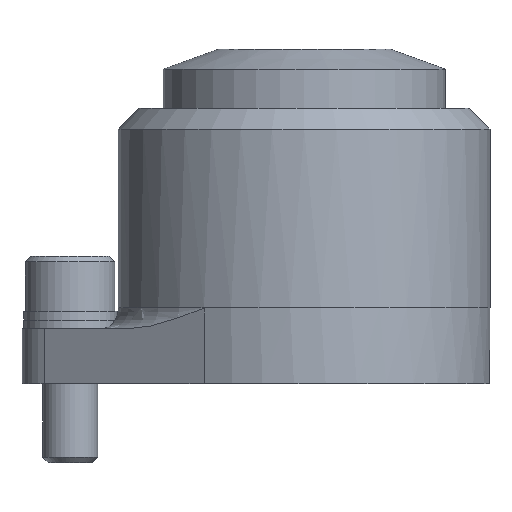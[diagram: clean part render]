
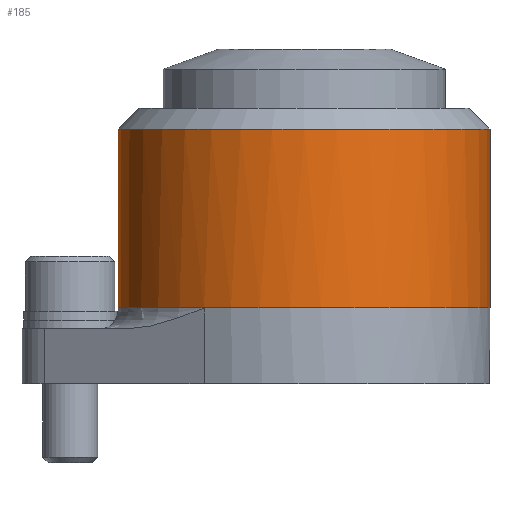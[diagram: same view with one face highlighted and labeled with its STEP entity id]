
A CAD part, front view. The second image highlights one B-rep face of the part: STEP entity #185.
In plain terms, the highlighted cylindrical face has radius 27 mm (diameter 54 mm), a partial arc.
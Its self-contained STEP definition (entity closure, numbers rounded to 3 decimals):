
#185=ADVANCED_FACE('',(#298),#260,.T.);
#260=CYLINDRICAL_SURFACE('',#1338,27.);
#298=FACE_OUTER_BOUND('',#362,.T.);
#362=EDGE_LOOP('',(#567,#568,#569,#570,#571));
#448=CIRCLE('',#1313,27.);
#466=CIRCLE('',#1336,27.);
#467=CIRCLE('',#1337,27.);
#567=ORIENTED_EDGE('',*,*,#987,.T.);
#568=ORIENTED_EDGE('',*,*,#1012,.T.);
#569=ORIENTED_EDGE('',*,*,#1013,.F.);
#570=ORIENTED_EDGE('',*,*,#1010,.F.);
#571=ORIENTED_EDGE('',*,*,#1014,.T.);
#877=VERTEX_POINT('',#1889);
#878=VERTEX_POINT('',#1891);
#896=VERTEX_POINT('',#1935);
#897=VERTEX_POINT('',#1937);
#898=VERTEX_POINT('',#1939);
#987=EDGE_CURVE('',#878,#877,#448,.T.);
#1010=EDGE_CURVE('',#896,#897,#1162,.T.);
#1012=EDGE_CURVE('',#877,#898,#1163,.T.);
#1013=EDGE_CURVE('',#897,#898,#466,.T.);
#1014=EDGE_CURVE('',#896,#878,#467,.T.);
#1162=LINE('',#1936,#1240);
#1163=LINE('',#1940,#1241);
#1240=VECTOR('',#1529,1.);
#1241=VECTOR('',#1532,1.);
#1313=AXIS2_PLACEMENT_3D('',#1890,#1481,#1482);
#1336=AXIS2_PLACEMENT_3D('',#1942,#1535,#1536);
#1337=AXIS2_PLACEMENT_3D('',#1943,#1537,#1538);
#1338=AXIS2_PLACEMENT_3D('',#1944,#1539,#1540);
#1481=DIRECTION('',(0.,0.,1.));
#1482=DIRECTION('',(-1.,0.,0.));
#1529=DIRECTION('',(0.,0.,1.));
#1532=DIRECTION('',(0.,0.,1.));
#1535=DIRECTION('',(0.,0.,1.));
#1536=DIRECTION('',(0.,1.,0.));
#1537=DIRECTION('',(0.,0.,1.));
#1538=DIRECTION('',(0.,1.,0.));
#1539=DIRECTION('',(0.,0.,1.));
#1540=DIRECTION('',(0.,-1.,0.));
#1889=CARTESIAN_POINT('',(27.,0.,11.));
#1890=CARTESIAN_POINT('',(0.,0.,11.));
#1891=CARTESIAN_POINT('',(-14.544,-22.748,11.));
#1935=CARTESIAN_POINT('',(-27.,0.,11.));
#1936=CARTESIAN_POINT('',(-27.,0.,37.));
#1937=CARTESIAN_POINT('',(-27.,0.,37.));
#1939=CARTESIAN_POINT('',(27.,0.,37.));
#1940=CARTESIAN_POINT('',(27.,0.,37.));
#1942=CARTESIAN_POINT('',(0.,0.,37.));
#1943=CARTESIAN_POINT('',(0.,0.,11.));
#1944=CARTESIAN_POINT('',(0.,0.,0.));
